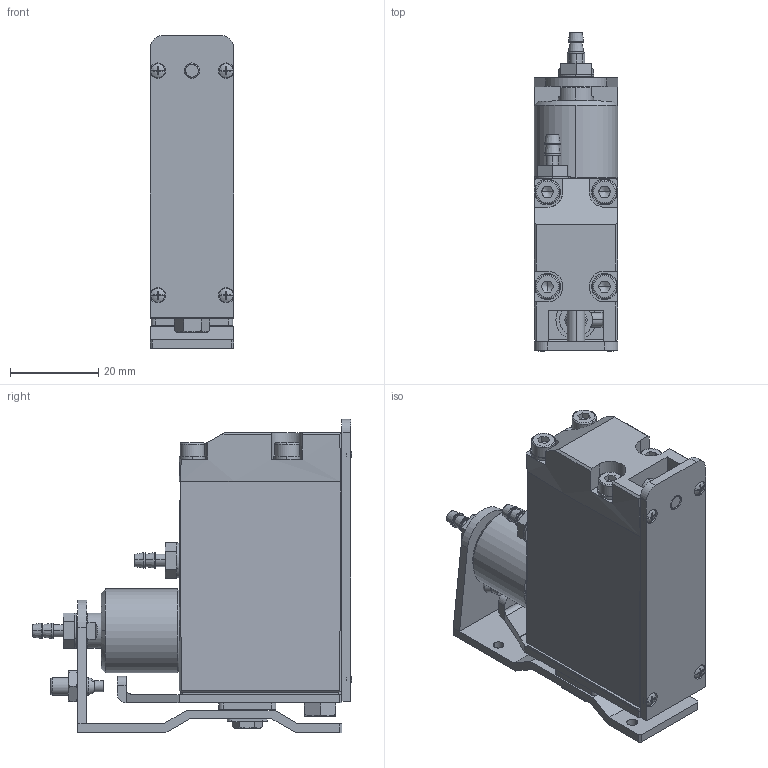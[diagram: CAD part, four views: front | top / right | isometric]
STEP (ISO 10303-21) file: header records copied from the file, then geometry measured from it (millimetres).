
FILE_DESCRIPTION (( 'STEP AP214' ), '1' );
FILE_NAME ('GT-NT03.STEP', '2019-11-27T02:23:58', ( '微软用户' ), ( '微软中国' ), 'SwSTEP 2.0', 'SolidWorks 2016', '' );
FILE_SCHEMA (( 'AUTOMOTIVE_DESIGN' ));
Length unit declared in the file: millimetre
Products named in the file (1): GT-NT03
Bounding box: 19 x 72.49 x 71.1 mm (x, y, z)
Surface area: 23912.7 mm2 (no closed solid volume)
Topology: 0 solids, 121 shells, 1074 faces, 2845 edges, 1941 vertices
Faces by surface type: plane 488, cylinder 329, bspline 135, cone 90, torus 24, sphere 8
Entity records: 51499 total; most frequent: CARTESIAN_POINT 18369, ORIENTED_EDGE 5142, DIRECTION 4805, EDGE_CURVE 2805, VERTEX_POINT 1941, AXIS2_PLACEMENT_3D 1815, EDGE_LOOP 1213, LINE 1175
